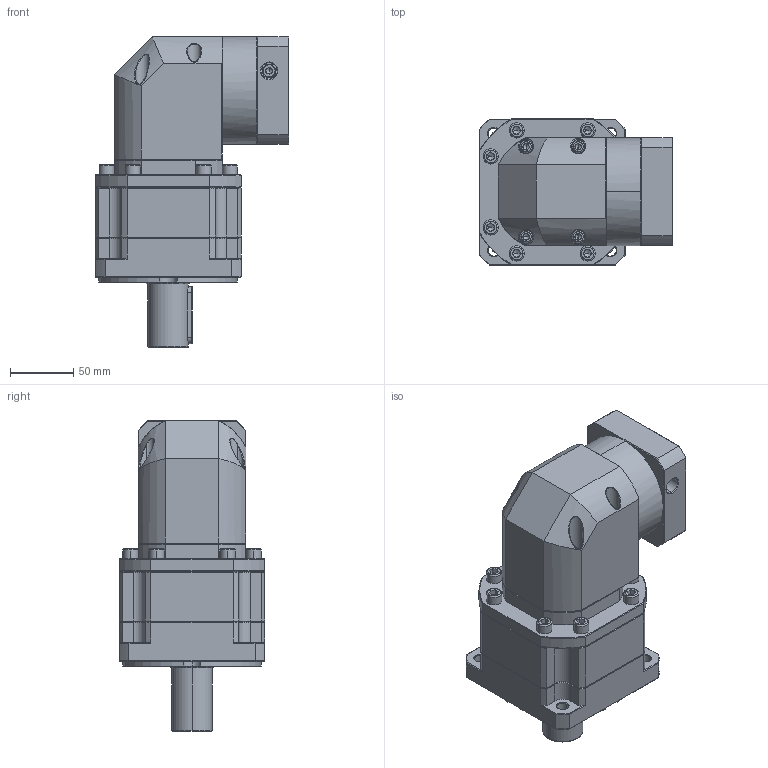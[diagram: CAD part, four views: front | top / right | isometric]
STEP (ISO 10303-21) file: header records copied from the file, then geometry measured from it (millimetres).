
FILE_DESCRIPTION (( 'STEP AP214' ), '1' );
FILE_NAME ('ZB115A-D32-L2-P2-14-60-75-M5.step', '2023-08-26T13:31:10', ( '' ), ( '' ), 'SwSTEP 2.0', 'SolidWorks 2016', '' );
FILE_SCHEMA (( 'AUTOMOTIVE_DESIGN' ));
Length unit declared in the file: millimetre
Products named in the file (1): ZB115A-D32-L2-P2-14-60-75-M5
Bounding box: 152.6 x 115 x 245 mm (x, y, z)
Volume: 1961041.6 mm3; surface area: 176783.7 mm2
Topology: 6 solids, 6 shells, 2606 faces, 6736 edges, 4238 vertices
Faces by surface type: plane 1300, cylinder 475, bspline 451, cone 366, torus 14
Entity records: 137618 total; most frequent: CARTESIAN_POINT 49311, ORIENTED_EDGE 13364, DIRECTION 10719, EDGE_CURVE 6682, VECTOR 4329, LINE 4329, VERTEX_POINT 4238, AXIS2_PLACEMENT_3D 3195
